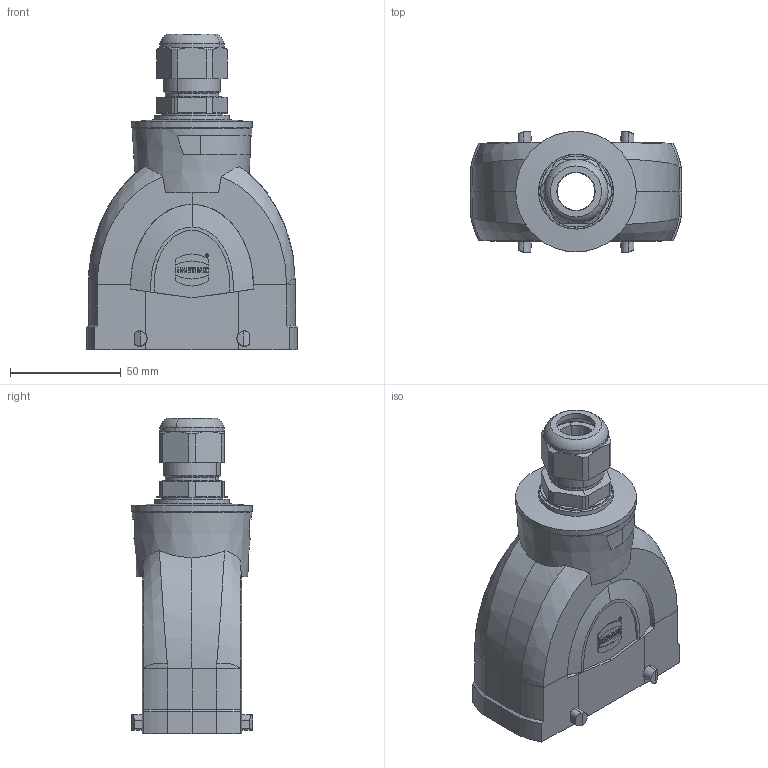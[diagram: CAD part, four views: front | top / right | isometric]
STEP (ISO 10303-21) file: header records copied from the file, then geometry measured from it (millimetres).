
FILE_DESCRIPTION(/* description */ (''),/* implementation_level */ '2;1');
FILE_NAME(/* name */ '100759204ugm000_b.stp',/* time_stamp */ '2022-03-12T06:25:47+01:00',/* author */ (''),/* organization */ (''),/* preprocessor_version */ 'ST-DEVELOPER v16.7',/* originating_system */ 'SIEMENS PLM Software NX 1911',/* authorisation */ '');
FILE_SCHEMA (('AUTOMOTIVE_DESIGN { 1 0 10303 214 3 1 1 1 }'));
Length unit declared in the file: millimetre
Products named in the file (1): 100759204ugm000_b
Bounding box: 95.5 x 55 x 142.4 mm (x, y, z)
Volume: 127073.5 mm3; surface area: 61094.5 mm2
Topology: 1 solids, 1 shells, 453 faces, 1308 edges, 882 vertices
Faces by surface type: plane 253, cylinder 88, cone 54, bspline 46, extrusion 10, torus 2
Full cylindrical faces by diameter (mm): 1.006 x1, 1.477 x1, 3 x4, 3.4 x4, 3.5 x4, 22 x1, 38 x1, 54.4 x1
Entity records: 20751 total; most frequent: CARTESIAN_POINT 6372, ORIENTED_EDGE 2514, DIRECTION 1996, EDGE_CURVE 1257, VERTEX_POINT 866, VECTOR 688, LINE 678, AXIS2_PLACEMENT_3D 654
